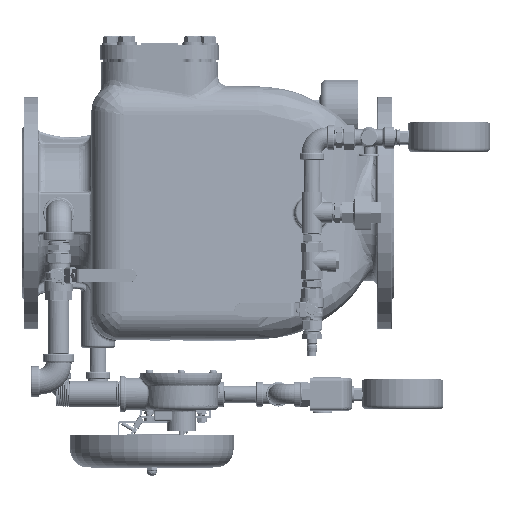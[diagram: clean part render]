
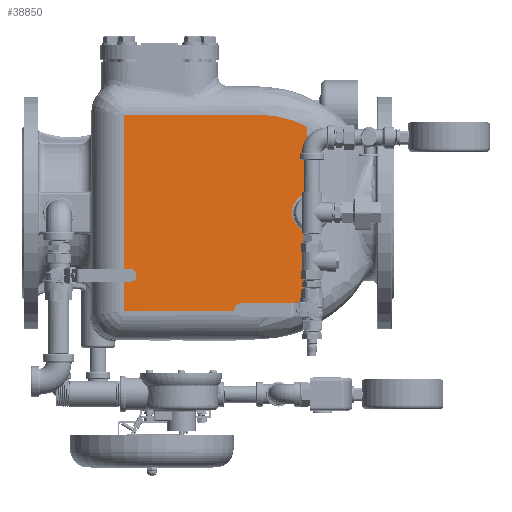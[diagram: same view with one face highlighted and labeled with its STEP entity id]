
A CAD part, top view. The second image highlights one B-rep face of the part: STEP entity #38850.
In plain terms, the highlighted planar face has unit normal (0.139, 0, 0.99) as drawn and (0.99, 0.139, 0) by its records, which use the part's own axes.
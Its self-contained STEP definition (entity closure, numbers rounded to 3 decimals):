
#1469=DIRECTION('',(-0.139,0.99,0.));
#1470=VECTOR('',#1469,166.672);
#1471=CARTESIAN_POINT('',(144.396,-102.629,120.));
#1472=LINE('',#1471,#1470);
#1806=DIRECTION('',(0.139,-0.99,0.));
#1807=VECTOR('',#1806,166.672);
#1808=CARTESIAN_POINT('',(121.2,62.421,-120.));
#1809=LINE('',#1808,#1807);
#1849=DIRECTION('',(0.,0.,1.));
#1850=VECTOR('',#1849,240.);
#1851=CARTESIAN_POINT('',(144.396,-102.629,-120.));
#1852=LINE('',#1851,#1850);
#12343=CARTESIAN_POINT('',(112.909,121.417,23.322));
#12353=CARTESIAN_POINT('',(112.909,121.417,
-23.322));
#12355=CARTESIAN_POINT('',(112.909,121.417,
-23.322));
#12356=CARTESIAN_POINT('',(113.325,118.458,
-22.603));
#12357=CARTESIAN_POINT('',(114.118,112.815,
-20.026));
#12358=CARTESIAN_POINT('',(115.02,106.398,
-13.29));
#12359=CARTESIAN_POINT('',(115.506,102.937,
-4.652));
#12360=CARTESIAN_POINT('',(115.506,102.94,4.652));
#12361=CARTESIAN_POINT('',(115.02,106.395,13.291));
#12362=CARTESIAN_POINT('',(114.118,112.817,20.025));
#12363=CARTESIAN_POINT('',(113.325,118.458,22.603));
#12364=CARTESIAN_POINT('',(112.909,121.417,23.322));
#12366=CARTESIAN_POINT('',(121.2,62.421,-120.));
#12367=CARTESIAN_POINT('',(119.558,74.107,-120.));
#12368=CARTESIAN_POINT('',(116.682,94.566,
-117.235));
#12369=CARTESIAN_POINT('',(113.997,113.674,
-109.542));
#12370=CARTESIAN_POINT('',(112.909,121.417,
-105.397));
#12372=CARTESIAN_POINT('',(112.909,121.417,105.397));
#12373=CARTESIAN_POINT('',(114.36,111.092,110.923));
#12374=CARTESIAN_POINT('',(117.094,91.641,117.939));
#12375=CARTESIAN_POINT('',(119.968,71.185,120.));
#12376=CARTESIAN_POINT('',(121.2,62.421,120.));
#12391=DIRECTION('',(0.,0.,-1.));
#12392=VECTOR('',#12391,82.076);
#12393=CARTESIAN_POINT('',(112.909,121.417,105.397));
#12394=LINE('',#12393,#12392);
#12442=DIRECTION('',(0.,0.,-1.));
#12443=VECTOR('',#12442,82.076);
#12444=CARTESIAN_POINT('',(112.909,121.417,
-23.322));
#12445=LINE('',#12444,#12443);
#16268=VERTEX_POINT('',#12353);
#16269=VERTEX_POINT('',#12343);
#16270=CARTESIAN_POINT('',(112.909,121.417,105.397));
#16271=VERTEX_POINT('',#16270);
#16272=VERTEX_POINT('',#12376);
#16273=CARTESIAN_POINT('',(144.396,-102.629,120.));
#16274=VERTEX_POINT('',#16273);
#16275=CARTESIAN_POINT('',(144.396,-102.629,-120.));
#16276=VERTEX_POINT('',#16275);
#16277=CARTESIAN_POINT('',(121.2,62.421,-120.));
#16278=VERTEX_POINT('',#16277);
#16279=VERTEX_POINT('',#12370);
#38832=CARTESIAN_POINT('',(151.405,-152.5,0.));
#38833=DIRECTION('',(-0.99,-0.139,0.));
#38834=DIRECTION('',(-0.139,0.99,0.));
#38835=AXIS2_PLACEMENT_3D('',#38832,#38833,#38834);
#38836=PLANE('',#38835);
#38837=ORIENTED_EDGE('',*,*,#38824,.F.);
#38839=ORIENTED_EDGE('',*,*,#38838,.T.);
#38840=ORIENTED_EDGE('',*,*,#21092,.F.);
#38841=ORIENTED_EDGE('',*,*,#21111,.T.);
#38842=ORIENTED_EDGE('',*,*,#21232,.T.);
#38843=ORIENTED_EDGE('',*,*,#20658,.T.);
#38845=ORIENTED_EDGE('',*,*,#38844,.F.);
#38847=ORIENTED_EDGE('',*,*,#38846,.T.);
#38848=EDGE_LOOP('',(#38837,#38839,#38840,#38841,#38842,#38843,#38845,#38847));
#38849=FACE_OUTER_BOUND('',#38848,.F.);
#38850=ADVANCED_FACE('',(#38849),#38836,.F.);
#12365=B_SPLINE_CURVE_WITH_KNOTS('',3,(#12355,#12356,#12357,#12358,#12359,
#12360,#12361,#12362,#12363,#12364),.UNSPECIFIED.,.F.,.F.,(4,1,1,1,1,1,1,4),(
0.,0.143,0.286,0.429,0.571,
0.714,0.857,1.),.UNSPECIFIED.);
#12371=B_SPLINE_CURVE_WITH_KNOTS('',3,(#12366,#12367,#12368,#12369,#12370),
.UNSPECIFIED.,.F.,.F.,(4,1,4),(0.,0.571,1.),.UNSPECIFIED.);
#12377=B_SPLINE_CURVE_WITH_KNOTS('',3,(#12372,#12373,#12374,#12375,#12376),
.UNSPECIFIED.,.F.,.F.,(4,1,4),(0.,0.571,1.),.UNSPECIFIED.);
#20658=EDGE_CURVE('',#16274,#16272,#1472,.T.);
#21092=EDGE_CURVE('',#16278,#16279,#12371,.T.);
#21111=EDGE_CURVE('',#16278,#16276,#1809,.T.);
#21232=EDGE_CURVE('',#16276,#16274,#1852,.T.);
#38824=EDGE_CURVE('',#16268,#16269,#12365,.T.);
#38838=EDGE_CURVE('',#16268,#16279,#12445,.T.);
#38844=EDGE_CURVE('',#16271,#16272,#12377,.T.);
#38846=EDGE_CURVE('',#16271,#16269,#12394,.T.);
